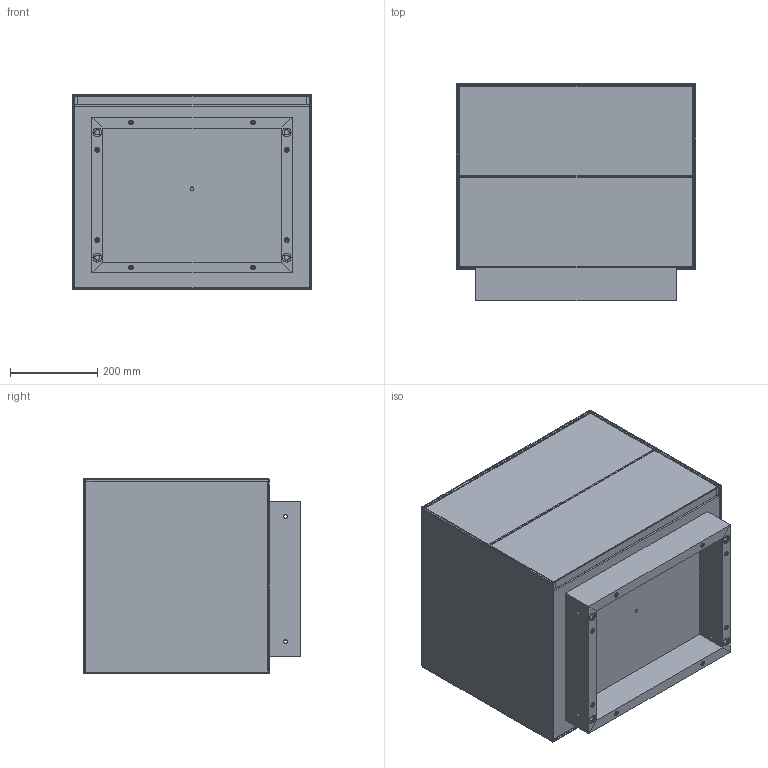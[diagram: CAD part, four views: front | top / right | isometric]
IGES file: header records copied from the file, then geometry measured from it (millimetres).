
Start section: SolidWorks IGES file using analytic representation for surfaces
Global section: file name: \\UTENTI\Dati Utenti\Tecnico\DC\2D - 3D per sito\3D\DeCastelli-2D-Marea Drawers 50.igs; native system: SolidWorks 2022; preprocessor: SolidWorks 2022; author: maria; date: 240716.112144; units: millimetre
Bounding box: 549.6 x 499.8 x 449.35 mm (x, y, z)
Surface area: 2631334.4 mm2 (no closed solid volume)
Topology: 0 solids, 0 shells, 243 faces, 3858 edges, 3858 vertices
Faces by surface type: bspline 140, revolution 103
